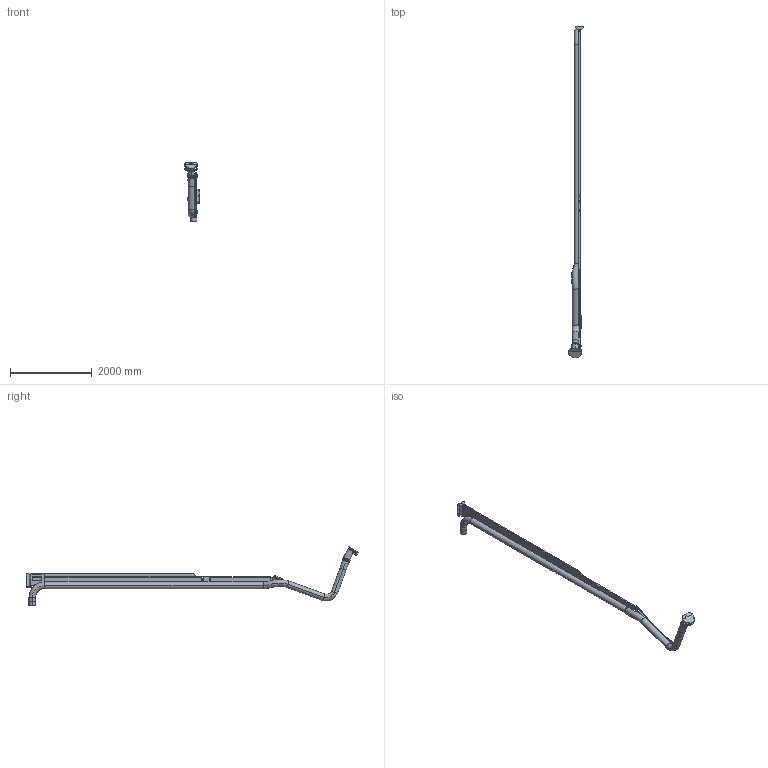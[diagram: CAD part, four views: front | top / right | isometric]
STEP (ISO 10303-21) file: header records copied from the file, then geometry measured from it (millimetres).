
FILE_DESCRIPTION((''),'2;1');
FILE_NAME('PR9000-160','2018-10-01T',('Gustav Stenberg'),(''),'CREO PARAMETRIC BY PTC INC, 2016130','CREO PARAMETRIC BY PTC INC, 2016130','');
FILE_SCHEMA(('AUTOMOTIVE_DESIGN { 1 0 10303 214 1 1 1 1 }'));
Length unit declared in the file: millimetre
Products named in the file (60): 100-6338-01; 100-6325-03; 100-6325-05; 100-6300-03; 100-6338; 100-6326-01; 100-6309-1; 100-6309-3; 100-6326; 100-6334-01; 100-6336-04; 100-6336-02; 100-6325-01; 100-6336-01; 100-6333-01; 100-6333-02; 100-6308-3; 100184; 100-6333; 100068; 102683; 100-5506_L_LIGHT; 100-5506_R_LIGHT; 100-5506; 100-5404-L_LIGHT; 100-5404-R_LIGHT; 100-5404; 100-5914; 100-5913; 100-5915; 135085; 102679; 100-5512-L_LIGHT; 100-512-R_LIGHT; 100-5512; 122219; 102715; 100-5911; 100-5518; 100-6305-2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
Assembly tree (68 placements, depth 5):
  PR9000-160
    100068
      100-6338
        100-6338-01
        100-6325-03  x2
        100-6325-05
        100-6300-03
      100-6326
        100-6326-01  x2
        100-6309-1
        100-6309-3
      100-6336-01
        100-6334-01
        100-6336-04  x2
        100-6336-02
        100-6325-03
        100-6325-05
        100-6325-01
      100-6333
        100184
          100-6333-01
          100-6333-02
          100-6308-3
    134112
      135085
        102683
        100-5506
          100-5506_L_LIGHT
          100-5506_R_LIGHT
        100-5404
          100-5404-L_LIGHT
          100-5404-R_LIGHT
        100-5915  x2
          100-5914
          100-5913
      122219
        102679
        100-5512
          100-5512-L_LIGHT
          100-512-R_LIGHT
      100-5518
        102715
        100-5911
      100-6305
        100-6305-2
        100-6305-1
        100-5911
    100-5721_LIGHT
    100-6341-160
      100-5823C_LIGHT
      100-5862A_LIGHT
      100-5865A_LIGHT
      126056_AF1
    130368
      135584
      STAB_K4-D4
    102118-REF
    130371
      135588
      STAB_K4-D4
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Bounding box: 371.5 x 8111.06 x 1462.97 mm (x, y, z)
Volume: 52255471.9 mm3; surface area: 13675911.6 mm2
Topology: 53 solids, 54 shells, 1270 faces, 3067 edges, 1900 vertices
Faces by surface type: plane 484, cylinder 431, cone 146, bspline 102, torus 77, sphere 26, extrusion 4
Entity records: 58505 total; most frequent: CARTESIAN_POINT 14033, DIRECTION 5379, ORIENTED_EDGE 4952, PROPERTY_DEFINITION 2558, REPRESENTATION 2518, PROPERTY_DEFINITION_REPRESENTATION 2518, EDGE_CURVE 2476, AXIS2_PLACEMENT_3D 2115
